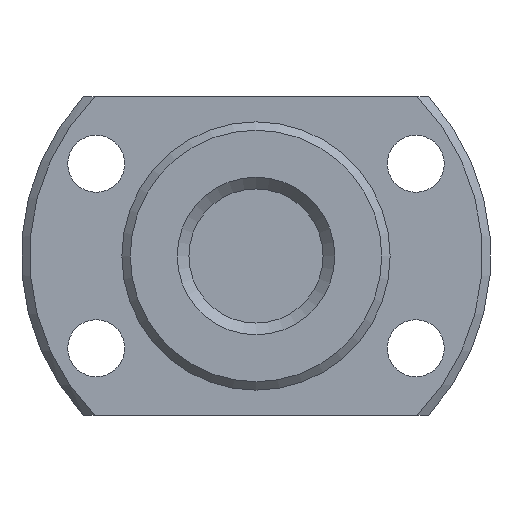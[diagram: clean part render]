
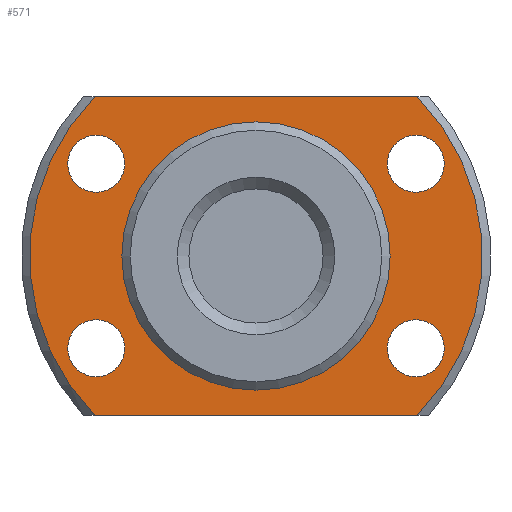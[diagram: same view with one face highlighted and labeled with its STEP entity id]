
A CAD part, left-side view. The second image highlights one B-rep face of the part: STEP entity #571.
In plain terms, the highlighted planar face has unit normal (-1, 0, 0) as drawn and (1, 0, 0) by its records, which use the part's own axes.
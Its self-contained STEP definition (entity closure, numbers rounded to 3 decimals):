
#83=CIRCLE('',#661,1.7);
#84=CIRCLE('',#662,1.7);
#85=CIRCLE('',#663,1.7);
#86=CIRCLE('',#664,1.7);
#87=CIRCLE('',#665,7.75);
#88=CIRCLE('',#666,13.5);
#89=CIRCLE('',#667,13.5);
#161=ORIENTED_EDGE('',*,*,#270,.T.);
#162=ORIENTED_EDGE('',*,*,#271,.T.);
#163=ORIENTED_EDGE('',*,*,#272,.T.);
#164=ORIENTED_EDGE('',*,*,#273,.T.);
#165=ORIENTED_EDGE('',*,*,#274,.F.);
#166=ORIENTED_EDGE('',*,*,#275,.T.);
#167=ORIENTED_EDGE('',*,*,#276,.T.);
#168=ORIENTED_EDGE('',*,*,#277,.T.);
#169=ORIENTED_EDGE('',*,*,#278,.T.);
#270=EDGE_CURVE('',#331,#331,#83,.F.);
#271=EDGE_CURVE('',#332,#332,#84,.F.);
#272=EDGE_CURVE('',#333,#333,#85,.F.);
#273=EDGE_CURVE('',#334,#334,#86,.F.);
#274=EDGE_CURVE('',#335,#335,#87,.T.);
#275=EDGE_CURVE('',#336,#337,#88,.T.);
#276=EDGE_CURVE('',#337,#338,#368,.T.);
#277=EDGE_CURVE('',#338,#339,#89,.T.);
#278=EDGE_CURVE('',#339,#336,#369,.T.);
#331=VERTEX_POINT('',#972);
#332=VERTEX_POINT('',#974);
#333=VERTEX_POINT('',#976);
#334=VERTEX_POINT('',#978);
#335=VERTEX_POINT('',#980);
#336=VERTEX_POINT('',#982);
#337=VERTEX_POINT('',#983);
#338=VERTEX_POINT('',#985);
#339=VERTEX_POINT('',#987);
#368=LINE('',#984,#386);
#369=LINE('',#988,#387);
#386=VECTOR('',#812,1000.);
#387=VECTOR('',#815,1000.);
#424=EDGE_LOOP('',(#161));
#425=EDGE_LOOP('',(#162));
#426=EDGE_LOOP('',(#163));
#427=EDGE_LOOP('',(#164));
#428=EDGE_LOOP('',(#165));
#429=EDGE_LOOP('',(#166,#167,#168,#169));
#496=FACE_BOUND('',#424,.T.);
#497=FACE_BOUND('',#425,.T.);
#498=FACE_BOUND('',#426,.T.);
#499=FACE_BOUND('',#427,.T.);
#500=FACE_BOUND('',#428,.T.);
#501=FACE_BOUND('',#429,.T.);
#547=PLANE('',#660);
#571=ADVANCED_FACE('',(#496,#497,#498,#499,#500,#501),#547,.T.);
#660=AXIS2_PLACEMENT_3D('',#970,#798,#799);
#661=AXIS2_PLACEMENT_3D('',#971,#800,#801);
#662=AXIS2_PLACEMENT_3D('',#973,#802,#803);
#663=AXIS2_PLACEMENT_3D('',#975,#804,#805);
#664=AXIS2_PLACEMENT_3D('',#977,#806,#807);
#665=AXIS2_PLACEMENT_3D('',#979,#808,#809);
#666=AXIS2_PLACEMENT_3D('',#981,#810,#811);
#667=AXIS2_PLACEMENT_3D('',#986,#813,#814);
#798=DIRECTION('',(1.,0.,0.));
#799=DIRECTION('',(0.,0.,-1.));
#800=DIRECTION('',(1.,0.,0.));
#801=DIRECTION('',(0.,0.,-1.));
#802=DIRECTION('',(1.,0.,0.));
#803=DIRECTION('',(0.,0.,-1.));
#804=DIRECTION('',(1.,0.,0.));
#805=DIRECTION('',(0.,0.,-1.));
#806=DIRECTION('',(1.,0.,0.));
#807=DIRECTION('',(0.,0.,-1.));
#808=DIRECTION('',(1.,0.,0.));
#809=DIRECTION('',(0.,0.,-1.));
#810=DIRECTION('',(1.,0.,0.));
#811=DIRECTION('',(0.,0.,-1.));
#812=DIRECTION('',(0.,-1.,0.));
#813=DIRECTION('',(1.,0.,0.));
#814=DIRECTION('',(0.,0.,-1.));
#815=DIRECTION('',(0.,1.,0.));
#970=CARTESIAN_POINT('',(6.,7.75,0.));
#971=CARTESIAN_POINT('',(6.,9.526,5.5));
#972=CARTESIAN_POINT('',(6.,9.526,3.8));
#973=CARTESIAN_POINT('',(6.,-9.526,-5.5));
#974=CARTESIAN_POINT('',(6.,-9.526,-7.2));
#975=CARTESIAN_POINT('',(6.,-9.526,5.5));
#976=CARTESIAN_POINT('',(6.,-9.526,3.8));
#977=CARTESIAN_POINT('',(6.,9.526,-5.5));
#978=CARTESIAN_POINT('',(6.,9.526,-7.2));
#979=CARTESIAN_POINT('',(6.,0.,0.));
#980=CARTESIAN_POINT('',(6.,0.,-7.75));
#981=CARTESIAN_POINT('',(6.,0.,0.));
#982=CARTESIAN_POINT('',(6.,9.592,-9.5));
#983=CARTESIAN_POINT('',(6.,9.592,9.5));
#984=CARTESIAN_POINT('',(6.,7.75,9.5));
#985=CARTESIAN_POINT('',(6.,-9.592,9.5));
#986=CARTESIAN_POINT('',(6.,0.,0.));
#987=CARTESIAN_POINT('',(6.,-9.592,-9.5));
#988=CARTESIAN_POINT('',(6.,7.75,-9.5));
